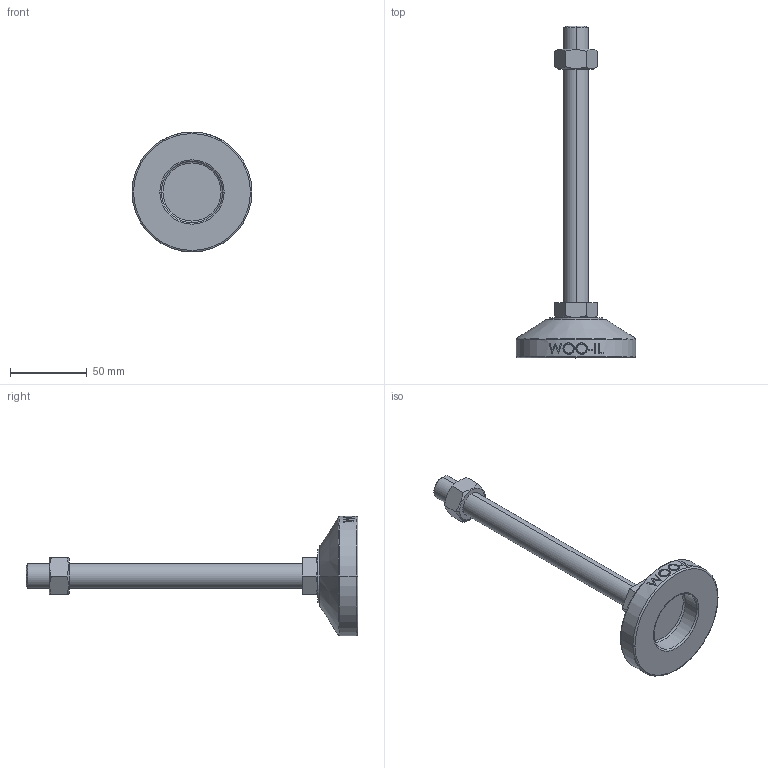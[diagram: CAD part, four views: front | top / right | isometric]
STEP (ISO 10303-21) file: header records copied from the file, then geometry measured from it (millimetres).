
FILE_DESCRIPTION (( 'STEP AP214' ), '1' );
FILE_NAME ('MF78-M16-180.step', '2021-02-03T08:20:45', ( '' ), ( '' ), 'SwSTEP 2.0', 'SolidWorks 2019', '' );
FILE_SCHEMA (( 'AUTOMOTIVE_DESIGN' ));
Length unit declared in the file: millimetre
Products named in the file (2): MF78-M16-180
Bounding box: 78 x 216 x 78 mm (x, y, z)
Volume: 124796.3 mm3; surface area: 27769.3 mm2
Topology: 3 solids, 3 shells, 106 faces, 243 edges, 154 vertices
Faces by surface type: plane 48, cylinder 18, bspline 16, cone 14, torus 10
Entity records: 4520 total; most frequent: CARTESIAN_POINT 2177, ORIENTED_EDGE 486, DIRECTION 439, EDGE_CURVE 243, AXIS2_PLACEMENT_3D 170, VERTEX_POINT 154, EDGE_LOOP 119, ADVANCED_FACE 106
